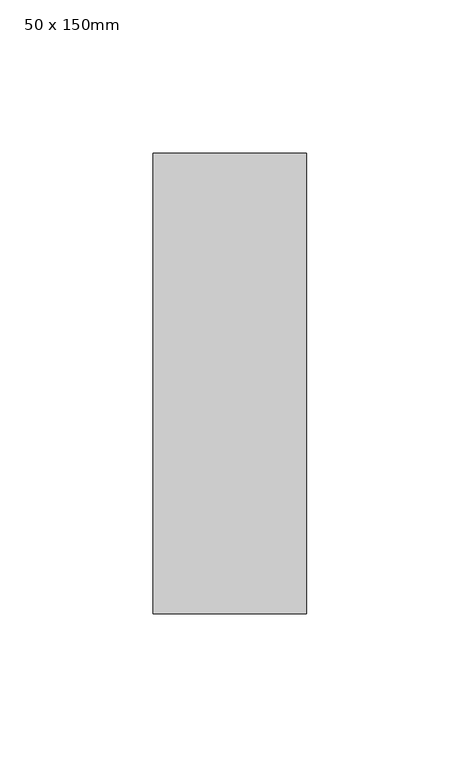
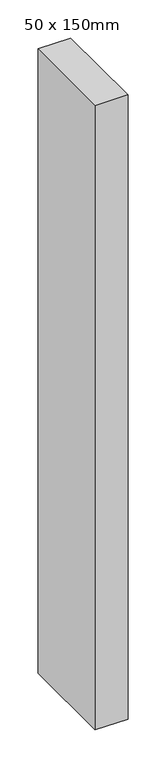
"""IFC4 building model written with IfcOpenShell, lengths in millimetres: member geometry, Прямоугольный импост : 50 x 150mm."""

from ifc_helpers import new_model, si_unit, frame, origin, place, context, project, spatial, polyline, outline, extrude, source, transform, mapped, element, save


def member_50_x_150mm_a9e08c22(model_context):
    return source(origin(), model_context, "Body", "SweptSolid", [
        extrude(outline(polyline([(0.0, 75.0), (0.0, -75.0), (-50.0, -75.0), (-50.0, 75.0), (0.0, 75.0)])), frame((0.0, 0.0, -1001.5192957), z_axis=(0.0, 0.0, 1.0), x_axis=(1.0, 0.0, 0.0)), (0.0, 0.0, 1.0), 1001.5192957),
    ])


if __name__ == "__main__":
    model = new_model("IFC4")
    model_context = context("Model", 3, world=origin())
    ifc_project = project(units=[si_unit("LENGTHUNIT", "METRE", prefix="MILLI")], contexts=[model_context])
    site = spatial("IfcSite", under=ifc_project)
    building = spatial("IfcBuilding", under=site)
    placement = place(None, origin())
    member_50_x_150mm_shape = member_50_x_150mm_a9e08c22(model_context)
    element("IfcMember", 1, ObjectType="Прямоугольный импост : 50 x 150mm", at=placement, inside=building, context=model_context, shape_type="MappedRepresentation", body=[
        mapped(member_50_x_150mm_shape, transform((0.0, 0.0, 0.0), x_axis=(1.0, 0.0, 0.0), y_axis=(0.0, 1.0, 0.0), z_axis=(0.0, 0.0, 1.0))),
    ])
    save(model, "model.ifc")
